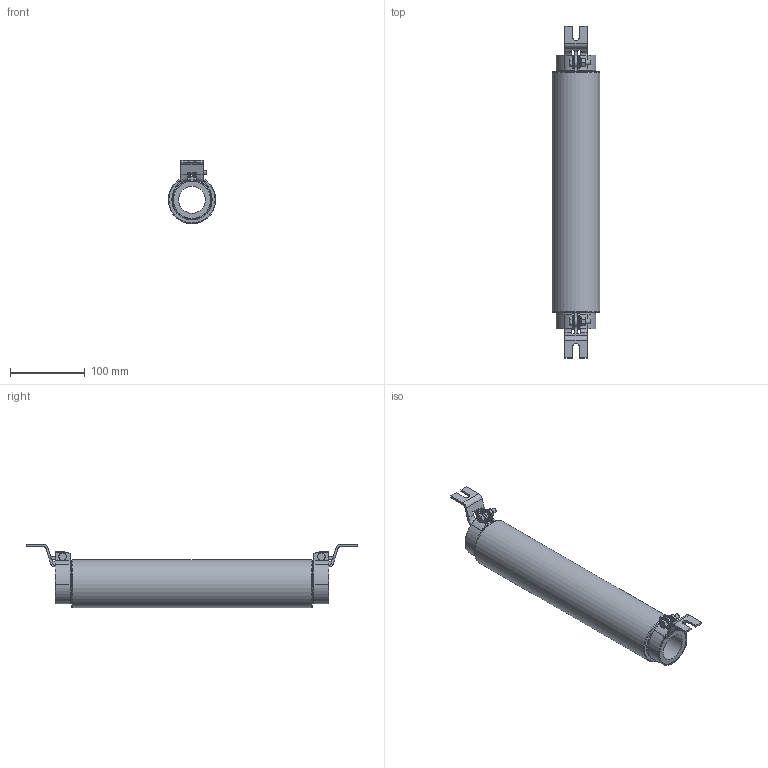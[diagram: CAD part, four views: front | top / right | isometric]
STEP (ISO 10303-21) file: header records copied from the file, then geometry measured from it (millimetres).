
FILE_DESCRIPTION(/* description */ (' '),/* implementation_level */ '2;1');
FILE_NAME(/* name */ 'C64TF_pattes sfernice',/* time_stamp */ '2018-10-18T13:53:04+02:00',/* author */ ('VISHAY MCB INDUSTRIE'),/* organization */ (' '),/* preprocessor_version */ 'ST-DEVELOPER v16.7',/* originating_system */ 'DEX',/* authorisation */ $);
FILE_SCHEMA (('AUTOMOTIVE_DESIGN {1 0 10303 214 3 1 1}'));
Length unit declared in the file: millimetre
Products named in the file (10): P500-4498; P500-4497; 745565; 068-066_email; Rondelle plate M6; P500-4496-01; P500-4495; Vis HM 6x25; Rondelle CS M6 (CE); Ecrou HM6 (CE)
Assembly tree (20 placements, depth 2):
  P500-4498
    P500-4497  x2
    745565
    068-066_email
    Rondelle plate M6  x4
    P500-4496-01  x2
    P500-4495  x4
    Vis HM 6x25  x2
    Rondelle CS M6 (CE)  x2
    Ecrou HM6 (CE)  x2
Bounding box: 64 x 445 x 84.98 mm (x, y, z)
Volume: 779243.1 mm3; surface area: 274390.9 mm2
Topology: 20 solids, 20 shells, 436 faces, 1146 edges, 752 vertices
Faces by surface type: plane 260, cone 80, cylinder 74, bspline 16, torus 6
Full cylindrical faces by diameter (mm): 5 x2, 6 x8, 7 x8, 14 x6, 36 x1, 62 x2, 64 x1
Entity records: 7769 total; most frequent: CARTESIAN_POINT 1989, ORIENTED_EDGE 1092, DIRECTION 1071, EDGE_CURVE 546, AXIS2_PLACEMENT_3D 395, VERTEX_POINT 367, LINE 281, VECTOR 281
